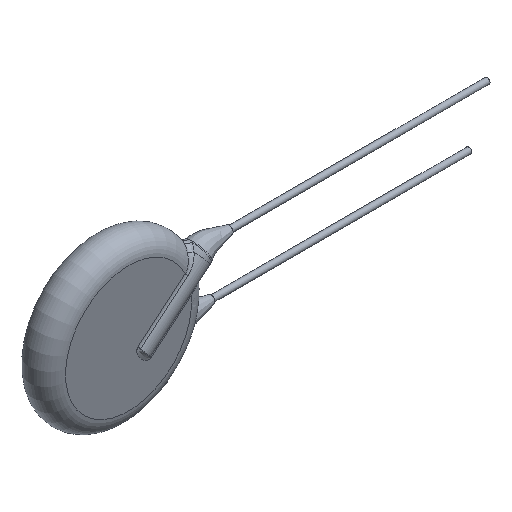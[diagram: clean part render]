
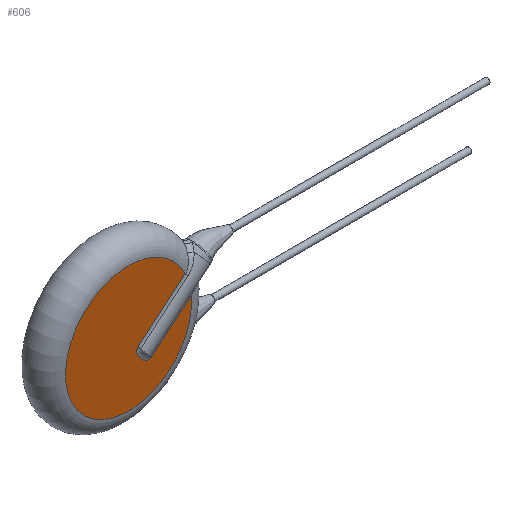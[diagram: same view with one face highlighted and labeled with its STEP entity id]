
A CAD part, isometric view. The second image highlights one B-rep face of the part: STEP entity #606.
In plain terms, the highlighted planar face has unit normal (0, -1, 0).
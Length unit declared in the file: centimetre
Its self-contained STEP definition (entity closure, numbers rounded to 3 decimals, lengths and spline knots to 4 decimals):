
#20=LINE('',#911,#28);
#22=LINE('',#1159,#30);
#28=VECTOR('',#712,0.5487);
#30=VECTOR('',#730,0.6455);
#43=B_SPLINE_CURVE_WITH_KNOTS('',3,(#880,#881,#882,#883,#884,#885,#886,
#887,#888,#889,#890,#891),.UNSPECIFIED.,.F.,.F.,(4,1,1,1,1,1,1,1,1,4),(0.2638,
0.2826,0.3015,0.3392,0.3768,
0.4145,0.4522,0.4899,0.5087,
0.5276),.UNSPECIFIED.);
#127=FACE_OUTER_BOUND('',#171,.T.);
#171=EDGE_LOOP('',(#433,#434,#435,#436));
#216=CIRCLE('',#656,0.66);
#240=VERTEX_POINT('',#877);
#241=VERTEX_POINT('',#879);
#243=VERTEX_POINT('',#907);
#257=VERTEX_POINT('',#1144);
#292=EDGE_CURVE('',#240,#241,#43,.T.);
#297=EDGE_CURVE('',#241,#243,#20,.T.);
#320=EDGE_CURVE('',#257,#240,#22,.T.);
#329=EDGE_CURVE('',#243,#257,#216,.T.);
#433=ORIENTED_EDGE('',*,*,#297,.F.);
#434=ORIENTED_EDGE('',*,*,#292,.F.);
#435=ORIENTED_EDGE('',*,*,#320,.F.);
#436=ORIENTED_EDGE('',*,*,#329,.F.);
#547=PLANE('',#657);
#606=ADVANCED_FACE('',(#127),#547,.F.);
#656=AXIS2_PLACEMENT_3D('',#1203,#735,#736);
#657=AXIS2_PLACEMENT_3D('',#1204,#737,#738);
#712=DIRECTION('',(0.766,0.,0.643));
#730=DIRECTION('',(-0.766,0.,-0.643));
#735=DIRECTION('center_axis',(0.,1.,0.));
#736=DIRECTION('ref_axis',(-1.,0.,0.));
#737=DIRECTION('center_axis',(0.,1.,0.));
#738=DIRECTION('ref_axis',(1.,0.,0.));
#877=CARTESIAN_POINT('',(0.0997,-0.125,-0.1276));
#879=CARTESIAN_POINT('',(0.2368,-0.125,-0.291));
#880=CARTESIAN_POINT('Ctrl Pts',(0.0997,-0.125,-0.1276));
#881=CARTESIAN_POINT('Ctrl Pts',(0.0949,-0.125,-0.1317));
#882=CARTESIAN_POINT('Ctrl Pts',(0.0875,-0.125,-0.1423));
#883=CARTESIAN_POINT('Ctrl Pts',(0.0839,-0.125,-0.1678));
#884=CARTESIAN_POINT('Ctrl Pts',(0.0937,-0.125,-0.1983));
#885=CARTESIAN_POINT('Ctrl Pts',(0.1141,-0.125,-0.23));
#886=CARTESIAN_POINT('Ctrl Pts',(0.1384,-0.125,-0.259));
#887=CARTESIAN_POINT('Ctrl Pts',(0.1661,-0.125,-0.2846));
#888=CARTESIAN_POINT('Ctrl Pts',(0.1945,-0.125,-0.2996));
#889=CARTESIAN_POINT('Ctrl Pts',(0.2202,-0.125,-0.3004));
#890=CARTESIAN_POINT('Ctrl Pts',(0.232,-0.125,-0.2951));
#891=CARTESIAN_POINT('Ctrl Pts',(0.2368,-0.125,-0.291));
#907=CARTESIAN_POINT('',(0.6571,-0.125,0.0617));
#911=CARTESIAN_POINT('',(0.8628,-0.125,0.2343));
#1144=CARTESIAN_POINT('',(0.5942,-0.125,0.2873));
#1159=CARTESIAN_POINT('',(0.7257,-0.125,0.3977));
#1203=CARTESIAN_POINT('Origin',(0.,-0.125,0.));
#1204=CARTESIAN_POINT('Origin',(0.,-0.125,0.));
